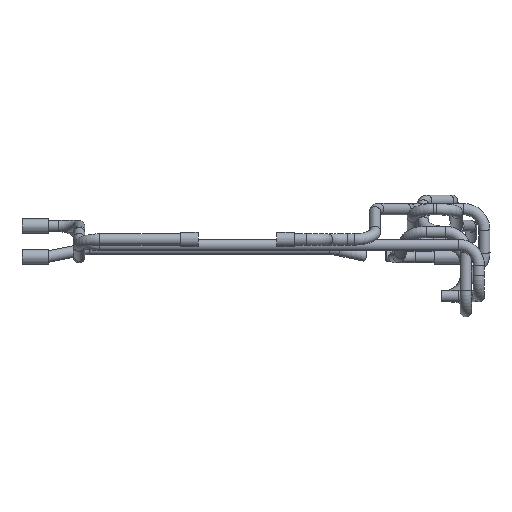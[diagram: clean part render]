
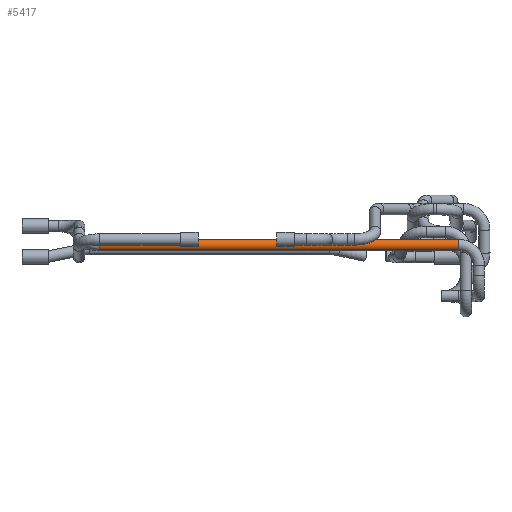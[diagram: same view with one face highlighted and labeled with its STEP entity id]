
A CAD part, front view. The second image highlights one B-rep face of the part: STEP entity #5417.
In plain terms, the highlighted cylindrical face has radius 0.825 mm (diameter 1.65 mm), a full revolution.
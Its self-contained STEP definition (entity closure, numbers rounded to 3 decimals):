
#5137 = TOROIDAL_SURFACE('',#5138,3.,0.825);
#5138 = AXIS2_PLACEMENT_3D('',#5139,#5140,#5141);
#5139 = CARTESIAN_POINT('',(32.1,-35.,-12.7));
#5140 = DIRECTION('',(0.,-1.,0.));
#5141 = DIRECTION('',(1.,0.,0.));
#5262 = VERTEX_POINT('',#5263);
#5263 = CARTESIAN_POINT('',(32.1,-34.175,-9.7));
#5284 = EDGE_CURVE('',#5262,#5262,#5285,.T.);
#5285 = SURFACE_CURVE('',#5286,(#5291,#5298),.PCURVE_S1.);
#5286 = CIRCLE('',#5287,0.825);
#5287 = AXIS2_PLACEMENT_3D('',#5288,#5289,#5290);
#5288 = CARTESIAN_POINT('',(32.1,-35.,-9.7));
#5289 = DIRECTION('',(1.,0.,0.));
#5290 = DIRECTION('',(0.,0.,1.));
#5291 = PCURVE('',#5137,#5292);
#5292 = DEFINITIONAL_REPRESENTATION('',(#5293),#5297);
#5293 = LINE('',#5294,#5295);
#5294 = CARTESIAN_POINT('',(1.571,0.));
#5295 = VECTOR('',#5296,1.);
#5296 = DIRECTION('',(0.,1.));
#5297 = ( GEOMETRIC_REPRESENTATION_CONTEXT(2) 
PARAMETRIC_REPRESENTATION_CONTEXT() REPRESENTATION_CONTEXT('2D SPACE',''
  ) );
#5298 = PCURVE('',#5299,#5304);
#5299 = CYLINDRICAL_SURFACE('',#5300,0.825);
#5300 = AXIS2_PLACEMENT_3D('',#5301,#5302,#5303);
#5301 = CARTESIAN_POINT('',(32.1,-35.,-9.7));
#5302 = DIRECTION('',(-1.,0.,0.));
#5303 = DIRECTION('',(0.,1.,0.));
#5304 = DEFINITIONAL_REPRESENTATION('',(#5305),#5308);
#5305 = B_SPLINE_CURVE_WITH_KNOTS('',1,(#5306,#5307),.UNSPECIFIED.,.F.,
  .F.,(2,2),(4.712,10.996),.PIECEWISE_BEZIER_KNOTS.);
#5306 = CARTESIAN_POINT('',(6.283,0.));
#5307 = CARTESIAN_POINT('',(0.,0.));
#5308 = ( GEOMETRIC_REPRESENTATION_CONTEXT(2) 
PARAMETRIC_REPRESENTATION_CONTEXT() REPRESENTATION_CONTEXT('2D SPACE',''
  ) );
#5417 = ADVANCED_FACE('',(#5418),#5299,.T.);
#5418 = FACE_BOUND('',#5419,.T.);
#5419 = EDGE_LOOP('',(#5420,#5442,#5468,#5469));
#5420 = ORIENTED_EDGE('',*,*,#5421,.T.);
#5421 = EDGE_CURVE('',#5262,#5422,#5424,.T.);
#5422 = VERTEX_POINT('',#5423);
#5423 = CARTESIAN_POINT('',(-20.,-34.175,-9.7));
#5424 = SEAM_CURVE('',#5425,(#5429,#5435),.PCURVE_S1.);
#5425 = LINE('',#5426,#5427);
#5426 = CARTESIAN_POINT('',(32.1,-34.175,-9.7));
#5427 = VECTOR('',#5428,1.);
#5428 = DIRECTION('',(-1.,0.,0.));
#5429 = PCURVE('',#5299,#5430);
#5430 = DEFINITIONAL_REPRESENTATION('',(#5431),#5434);
#5431 = B_SPLINE_CURVE_WITH_KNOTS('',1,(#5432,#5433),.UNSPECIFIED.,.F.,
  .F.,(2,2),(0.,52.1),.PIECEWISE_BEZIER_KNOTS.);
#5432 = CARTESIAN_POINT('',(6.283,0.));
#5433 = CARTESIAN_POINT('',(6.283,52.1));
#5434 = ( GEOMETRIC_REPRESENTATION_CONTEXT(2) 
PARAMETRIC_REPRESENTATION_CONTEXT() REPRESENTATION_CONTEXT('2D SPACE',''
  ) );
#5435 = PCURVE('',#5299,#5436);
#5436 = DEFINITIONAL_REPRESENTATION('',(#5437),#5441);
#5437 = LINE('',#5438,#5439);
#5438 = CARTESIAN_POINT('',(0.,0.));
#5439 = VECTOR('',#5440,1.);
#5440 = DIRECTION('',(0.,1.));
#5441 = ( GEOMETRIC_REPRESENTATION_CONTEXT(2) 
PARAMETRIC_REPRESENTATION_CONTEXT() REPRESENTATION_CONTEXT('2D SPACE',''
  ) );
#5442 = ORIENTED_EDGE('',*,*,#5443,.F.);
#5443 = EDGE_CURVE('',#5422,#5422,#5444,.T.);
#5444 = SURFACE_CURVE('',#5445,(#5450,#5457),.PCURVE_S1.);
#5445 = CIRCLE('',#5446,0.825);
#5446 = AXIS2_PLACEMENT_3D('',#5447,#5448,#5449);
#5447 = CARTESIAN_POINT('',(-20.,-35.,-9.7));
#5448 = DIRECTION('',(-1.,0.,0.));
#5449 = DIRECTION('',(0.,1.,0.));
#5450 = PCURVE('',#5299,#5451);
#5451 = DEFINITIONAL_REPRESENTATION('',(#5452),#5456);
#5452 = LINE('',#5453,#5454);
#5453 = CARTESIAN_POINT('',(0.,52.1));
#5454 = VECTOR('',#5455,1.);
#5455 = DIRECTION('',(1.,0.));
#5456 = ( GEOMETRIC_REPRESENTATION_CONTEXT(2) 
PARAMETRIC_REPRESENTATION_CONTEXT() REPRESENTATION_CONTEXT('2D SPACE',''
  ) );
#5457 = PCURVE('',#5458,#5463);
#5458 = TOROIDAL_SURFACE('',#5459,3.,0.825);
#5459 = AXIS2_PLACEMENT_3D('',#5460,#5461,#5462);
#5460 = CARTESIAN_POINT('',(-20.,-32.14,-8.794));
#5461 = DIRECTION('',(0.,0.302,-0.953
    ));
#5462 = DIRECTION('',(0.,-0.953,
    -0.302));
#5463 = DEFINITIONAL_REPRESENTATION('',(#5464),#5467);
#5464 = B_SPLINE_CURVE_WITH_KNOTS('',1,(#5465,#5466),.UNSPECIFIED.,.F.,
  .F.,(2,2),(0.,6.283),.PIECEWISE_BEZIER_KNOTS.);
#5465 = CARTESIAN_POINT('',(0.,9.118));
#5466 = CARTESIAN_POINT('',(0.,2.835));
#5467 = ( GEOMETRIC_REPRESENTATION_CONTEXT(2) 
PARAMETRIC_REPRESENTATION_CONTEXT() REPRESENTATION_CONTEXT('2D SPACE',''
  ) );
#5468 = ORIENTED_EDGE('',*,*,#5421,.F.);
#5469 = ORIENTED_EDGE('',*,*,#5284,.F.);
